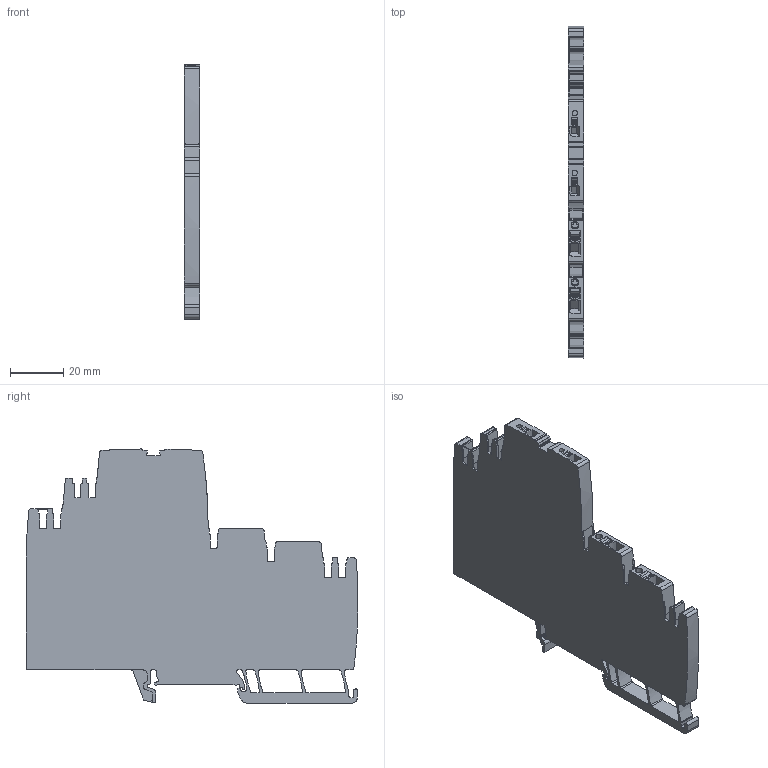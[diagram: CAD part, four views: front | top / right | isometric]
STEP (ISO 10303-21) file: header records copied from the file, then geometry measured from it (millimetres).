
FILE_DESCRIPTION(('CATIA V5R24 STEP','CAx-IF Rec.Pracs.--- Model Styling and Organization---1.2---2011-12-15'),'2;1');
FILE_NAME('\\SRVDE107\Germany\WMC\1_WMC_Input\Step_BU_PA\2122910000.stp','2017-09-05T11:44:08+00:00',('Weidmueller Interface'),('WI'),'CATIA Version 5-6 Release 2014 SP4','CATIA V5 STEP AP214','none');
FILE_SCHEMA(('AUTOMOTIVE_DESIGN { 1 0 10303 214 1 1 1 1 }'));
Length unit declared in the file: millimetre
Products named in the file (1): 2122910000
Bounding box: 6 x 125.07 x 95.73 mm (x, y, z)
Volume: 25466.1 mm3; surface area: 32774.9 mm2
Topology: 10 solids, 10 shells, 909 faces, 2796 edges, 1922 vertices
Faces by surface type: plane 514, cylinder 350, extrusion 45
Entity records: 34533 total; most frequent: CARTESIAN_POINT 9722, ORIENTED_EDGE 5592, DIRECTION 3911, EDGE_CURVE 2796, VERTEX_POINT 1922, VECTOR 1899, LINE 1854, AXIS2_PLACEMENT_3D 1242
